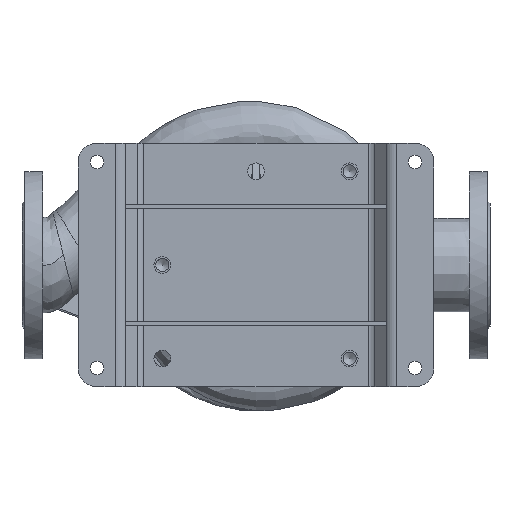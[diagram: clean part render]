
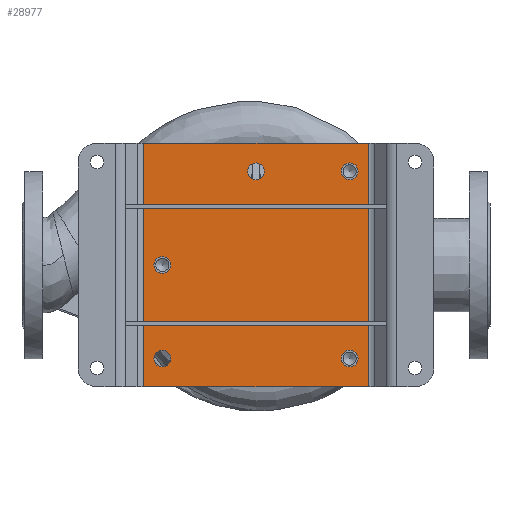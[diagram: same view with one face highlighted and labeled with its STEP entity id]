
A CAD part, top view. The second image highlights one B-rep face of the part: STEP entity #28977.
In plain terms, the highlighted planar face has unit normal (0, 0, 1) as drawn and (0, -1, 0) by its records, which use the part's own axes.
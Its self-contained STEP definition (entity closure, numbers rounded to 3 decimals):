
#264 = DIRECTION ( 'NONE',  ( 0., -1., 0. ) ) ;
#323 = CARTESIAN_POINT ( 'NONE',  ( -100., -5., 91. ) ) ;
#924 = CARTESIAN_POINT ( 'NONE',  ( -100., -5., -109. ) ) ;
#1559 = EDGE_CURVE ( 'NONE', #61773, #61773, #69243, .T. ) ;
#1670 = AXIS2_PLACEMENT_3D ( 'NONE', #29844, #52329, #30924 ) ;
#2396 = LINE ( 'NONE', #63225, #14656 ) ;
#3200 = CARTESIAN_POINT ( 'NONE',  ( 0., -5., -100. ) ) ;
#4214 = EDGE_LOOP ( 'NONE', ( #7916 ) ) ;
#5197 = EDGE_CURVE ( 'NONE', #51426, #51426, #51684, .T. ) ;
#7095 = LINE ( 'NONE', #13758, #27300 ) ;
#7274 = FACE_BOUND ( 'NONE', #70972, .T. ) ;
#7916 = ORIENTED_EDGE ( 'NONE', *, *, #27510, .F. ) ;
#7932 = DIRECTION ( 'NONE',  ( 0., 0., 1. ) ) ;
#8215 = DIRECTION ( 'NONE',  ( 1., 0., 0. ) ) ;
#9020 = EDGE_LOOP ( 'NONE', ( #72319, #12451, #9287, #18904 ) ) ;
#9287 = ORIENTED_EDGE ( 'NONE', *, *, #53739, .F. ) ;
#9463 = ORIENTED_EDGE ( 'NONE', *, *, #5197, .F. ) ;
#9865 = CIRCLE ( 'NONE', #31010, 9. ) ;
#12013 = CARTESIAN_POINT ( 'NONE',  ( 100., -5., 91. ) ) ;
#12451 = ORIENTED_EDGE ( 'NONE', *, *, #17000, .F. ) ;
#12817 = FACE_OUTER_BOUND ( 'NONE', #9020, .T. ) ;
#12981 = EDGE_LOOP ( 'NONE', ( #44080 ) ) ;
#13080 = VECTOR ( 'NONE', #8215, 1000. ) ;
#13758 = CARTESIAN_POINT ( 'NONE',  ( -120., -5., -130. ) ) ;
#14025 = AXIS2_PLACEMENT_3D ( 'NONE', #16546, #264, #57392 ) ;
#14656 = VECTOR ( 'NONE', #7932, 1000. ) ;
#16546 = CARTESIAN_POINT ( 'NONE',  ( 100., -5., 100. ) ) ;
#16995 = VECTOR ( 'NONE', #52310, 1000. ) ;
#17000 = EDGE_CURVE ( 'NONE', #42954, #34244, #36556, .T. ) ;
#18363 = FACE_BOUND ( 'NONE', #4214, .T. ) ;
#18904 = ORIENTED_EDGE ( 'NONE', *, *, #70798, .F. ) ;
#19085 = CARTESIAN_POINT ( 'NONE',  ( 0., -5., 0. ) ) ;
#20179 = DIRECTION ( 'NONE',  ( 0., 0., -1. ) ) ;
#24114 = ORIENTED_EDGE ( 'NONE', *, *, #51407, .F. ) ;
#24369 = CARTESIAN_POINT ( 'NONE',  ( 100., -5., 0. ) ) ;
#24719 = DIRECTION ( 'NONE',  ( 0., -1., 0. ) ) ;
#25236 = CIRCLE ( 'NONE', #44025, 9. ) ;
#25342 = DIRECTION ( 'NONE',  ( 0., 0., -1. ) ) ;
#27300 = VECTOR ( 'NONE', #40598, 1000. ) ;
#27510 = EDGE_CURVE ( 'NONE', #49373, #49373, #25236, .T. ) ;
#28497 = VERTEX_POINT ( 'NONE', #52344 ) ;
#28977 = ADVANCED_FACE ( 'NONE', ( #35631, #7274, #18363, #47046, #57784, #12817 ), #29773, .T. ) ;
#29773 = PLANE ( 'NONE',  #43903 ) ;
#29844 = CARTESIAN_POINT ( 'NONE',  ( -100., -5., 100. ) ) ;
#30525 = CARTESIAN_POINT ( 'NONE',  ( 100., -5., -9. ) ) ;
#30924 = DIRECTION ( 'NONE',  ( 0., 0., -1. ) ) ;
#31010 = AXIS2_PLACEMENT_3D ( 'NONE', #24369, #24719, #63419 ) ;
#31677 = CARTESIAN_POINT ( 'NONE',  ( 120., -5., 130. ) ) ;
#32550 = VERTEX_POINT ( 'NONE', #70957 ) ;
#33499 = EDGE_CURVE ( 'NONE', #35292, #35292, #64049, .T. ) ;
#33506 = CARTESIAN_POINT ( 'NONE',  ( 0., -5., -109. ) ) ;
#34244 = VERTEX_POINT ( 'NONE', #31677 ) ;
#35253 = DIRECTION ( 'NONE',  ( 0., -1., 0. ) ) ;
#35292 = VERTEX_POINT ( 'NONE', #323 ) ;
#35624 = DIRECTION ( 'NONE',  ( 0., -1., 0. ) ) ;
#35631 = FACE_BOUND ( 'NONE', #45651, .T. ) ;
#36556 = LINE ( 'NONE', #58350, #13080 ) ;
#40598 = DIRECTION ( 'NONE',  ( -1., 0., 0. ) ) ;
#40816 = CARTESIAN_POINT ( 'NONE',  ( 120., -5., 130. ) ) ;
#42954 = VERTEX_POINT ( 'NONE', #52954 ) ;
#43903 = AXIS2_PLACEMENT_3D ( 'NONE', #19085, #35253, #52257 ) ;
#44025 = AXIS2_PLACEMENT_3D ( 'NONE', #3200, #48133, #20179 ) ;
#44080 = ORIENTED_EDGE ( 'NONE', *, *, #33499, .F. ) ;
#45651 = EDGE_LOOP ( 'NONE', ( #24114 ) ) ;
#47046 = FACE_BOUND ( 'NONE', #65090, .T. ) ;
#48133 = DIRECTION ( 'NONE',  ( 0., -1., 0. ) ) ;
#49373 = VERTEX_POINT ( 'NONE', #33506 ) ;
#51407 = EDGE_CURVE ( 'NONE', #64094, #64094, #9865, .T. ) ;
#51426 = VERTEX_POINT ( 'NONE', #12013 ) ;
#51493 = ORIENTED_EDGE ( 'NONE', *, *, #1559, .F. ) ;
#51684 = CIRCLE ( 'NONE', #14025, 9. ) ;
#52257 = DIRECTION ( 'NONE',  ( 0., 0., -1. ) ) ;
#52310 = DIRECTION ( 'NONE',  ( 0., 0., -1. ) ) ;
#52329 = DIRECTION ( 'NONE',  ( 0., -1., 0. ) ) ;
#52344 = CARTESIAN_POINT ( 'NONE',  ( 120., -5., -130. ) ) ;
#52672 = LINE ( 'NONE', #40816, #16995 ) ;
#52954 = CARTESIAN_POINT ( 'NONE',  ( -120., -5., 130. ) ) ;
#53292 = EDGE_CURVE ( 'NONE', #34244, #28497, #52672, .T. ) ;
#53739 = EDGE_CURVE ( 'NONE', #32550, #42954, #2396, .T. ) ;
#56679 = CARTESIAN_POINT ( 'NONE',  ( -100., -5., -100. ) ) ;
#57392 = DIRECTION ( 'NONE',  ( 0., 0., -1. ) ) ;
#57784 = FACE_BOUND ( 'NONE', #12981, .T. ) ;
#58350 = CARTESIAN_POINT ( 'NONE',  ( -120., -5., 130. ) ) ;
#61773 = VERTEX_POINT ( 'NONE', #924 ) ;
#63225 = CARTESIAN_POINT ( 'NONE',  ( -120., -5., 130. ) ) ;
#63419 = DIRECTION ( 'NONE',  ( 0., 0., -1. ) ) ;
#64049 = CIRCLE ( 'NONE', #1670, 9. ) ;
#64094 = VERTEX_POINT ( 'NONE', #30525 ) ;
#64538 = AXIS2_PLACEMENT_3D ( 'NONE', #56679, #35624, #25342 ) ;
#65090 = EDGE_LOOP ( 'NONE', ( #9463 ) ) ;
#69243 = CIRCLE ( 'NONE', #64538, 9. ) ;
#70798 = EDGE_CURVE ( 'NONE', #28497, #32550, #7095, .T. ) ;
#70957 = CARTESIAN_POINT ( 'NONE',  ( -120., -5., -130. ) ) ;
#70972 = EDGE_LOOP ( 'NONE', ( #51493 ) ) ;
#72319 = ORIENTED_EDGE ( 'NONE', *, *, #53292, .F. ) ;
